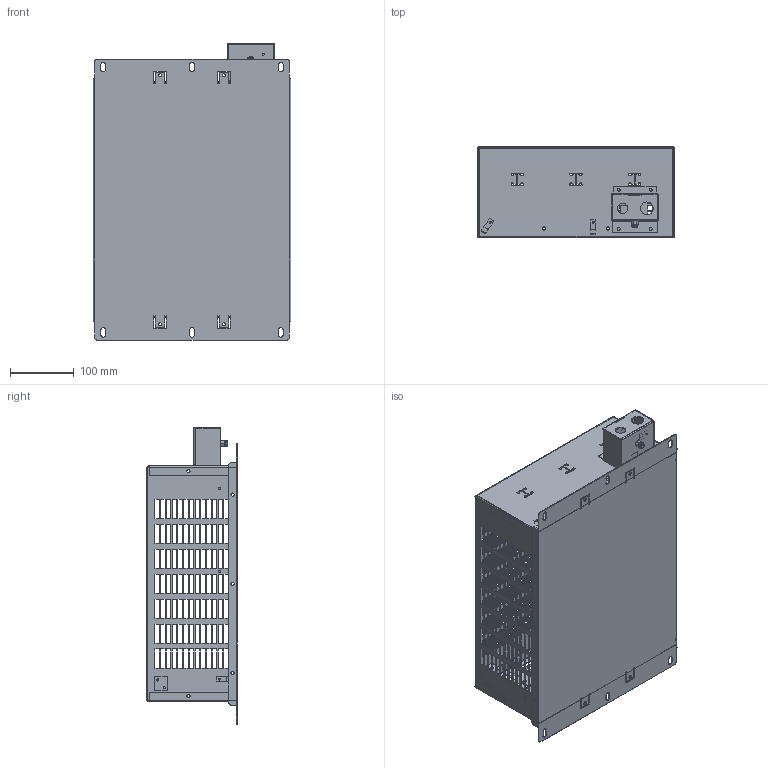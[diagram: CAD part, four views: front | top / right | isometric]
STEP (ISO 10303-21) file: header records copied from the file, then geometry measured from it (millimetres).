
FILE_DESCRIPTION(/* description */ (''),/* implementation_level */ '2;1');
FILE_NAME(/* name */ 'C:\_Vault\Dati\CATALOGO\RME\CT MARZO 2015\Assieme3-4L\Assieme3L.stp',/* time_stamp */ '2017-11-10T10:19:03+01:00',/* author */ ('Diego'),/* organization */ ('Fairfild Srl'),/* preprocessor_version */ 'ST-DEVELOPER v16.5',/* originating_system */ 'Autodesk Inventor 2017',/* authorisation */ '');
FILE_SCHEMA (('CONFIG_CONTROL_DESIGN'));
Products named in the file (1): Assieme RME03L
Bounding box: 308.9 x 141.1 x 464.3 mm (x, y, z)
Volume: 400276.6 mm3; surface area: 774144.3 mm2
Topology: 1 solids, 1 shells, 3638 faces, 10494 edges, 6984 vertices
Faces by surface type: plane 2780, bspline 640, cylinder 209, cone 8, torus 1
Full cylindrical faces by diameter (mm): 3 x1, 3.2 x12, 3.3 x2, 3.5 x4, 4.2 x3, 4.5 x3, 5 x40, 6 x1, 6.5 x1, 7.5 x1, 16 x1, 19 x1, 20 x1
Entity records: 126301 total; most frequent: CARTESIAN_POINT 29359, ORIENTED_EDGE 20800, DIRECTION 15548, EDGE_CURVE 10400, LINE 8654, VECTOR 8654, VERTEX_POINT 6964, EDGE_LOOP 4882
